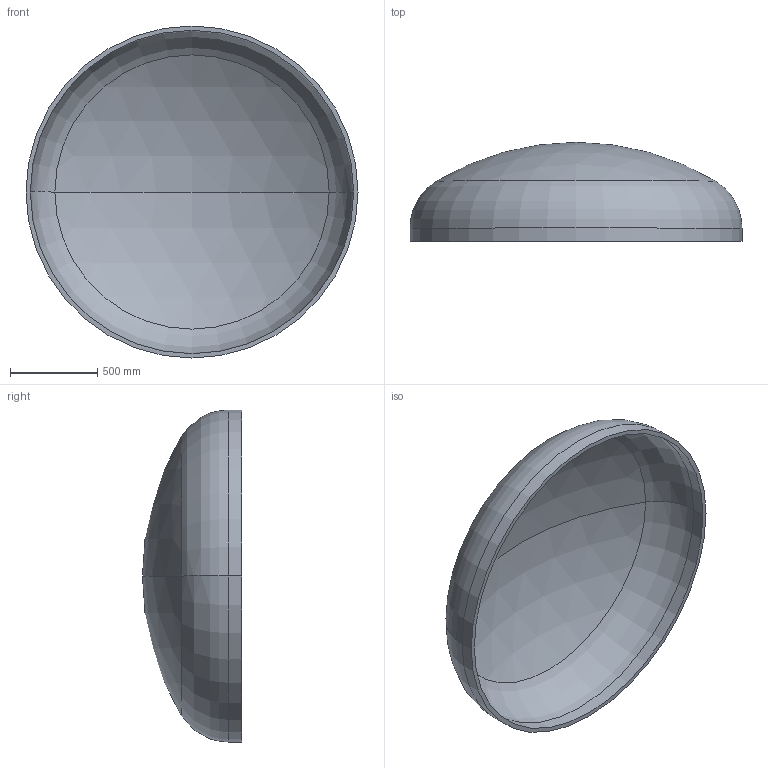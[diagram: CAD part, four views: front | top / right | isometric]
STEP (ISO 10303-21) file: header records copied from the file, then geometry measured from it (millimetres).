
FILE_DESCRIPTION (( 'STEP AP203' ), '1' );
FILE_NAME ('DIN 28013 Korbbogenform_-_Boden DIN 28013 - 1900 x 75 - I - s=25.step', '2016-07-01T13:01:36', ( '' ), ( '' ), 'SwSTEP 2.0', 'SolidWorks 2013', '' );
FILE_SCHEMA (( 'CONFIG_CONTROL_DESIGN' ));
Length unit declared in the file: millimetre
Products named in the file (1): DIN 28013 Korbbogenform_-_Boden DIN 28013 - 1900 x 75 - I - s=25
Bounding box: 1900 x 566.59 x 1900 mm (x, y, z)
Volume: 107354208.6 mm3; surface area: 8736904.8 mm2
Topology: 1 solids, 1 shells, 13 faces, 24 edges, 14 vertices
Faces by surface type: torus 4, cylinder 4, sphere 4, plane 1
Entity records: 407 total; most frequent: DIRECTION 72, CARTESIAN_POINT 52, ORIENTED_EDGE 48, AXIS2_PLACEMENT_3D 34, EDGE_CURVE 24, CIRCLE 20, VERTEX_POINT 14, EDGE_LOOP 14
